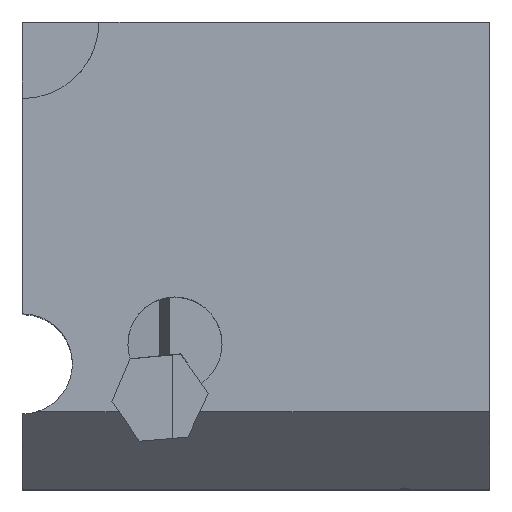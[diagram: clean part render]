
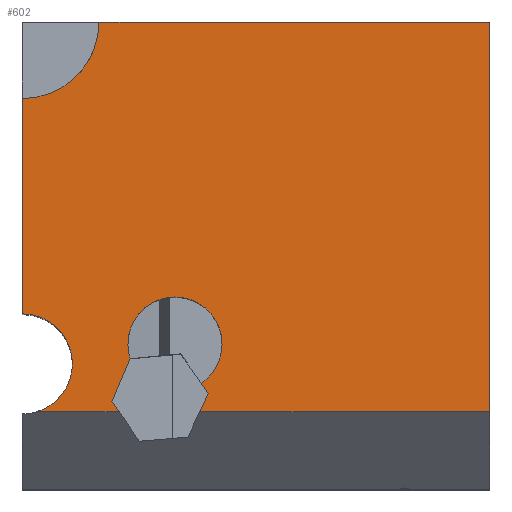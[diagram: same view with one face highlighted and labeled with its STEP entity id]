
A CAD part, top view. The second image highlights one B-rep face of the part: STEP entity #602.
In plain terms, the highlighted planar face has unit normal (0, 0, 1).
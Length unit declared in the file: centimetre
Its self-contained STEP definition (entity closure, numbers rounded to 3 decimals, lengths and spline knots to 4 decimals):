
#21 = CIRCLE ( 'NONE', #1441, 100.7163 ) ;
#42 = EDGE_CURVE ( 'NONE', #1567, #82, #1846, .T. ) ;
#57 = DIRECTION ( 'NONE',  ( 0.426, 0.905, 0. ) ) ;
#82 = VERTEX_POINT ( 'NONE', #704 ) ;
#111 = EDGE_CURVE ( 'NONE', #246, #1567, #1868, .T. ) ;
#115 = ORIENTED_EDGE ( 'NONE', *, *, #1467, .F. ) ;
#156 = CARTESIAN_POINT ( 'NONE',  ( 1000., 165.7904, 1000. ) ) ;
#165 = DIRECTION ( 'NONE',  ( -0.571, 0.821, 0. ) ) ;
#179 = DIRECTION ( 'NONE',  ( 0., 1., 0. ) ) ;
#184 = AXIS2_PLACEMENT_3D ( 'NONE', #1488, #534, #1877 ) ;
#203 = CARTESIAN_POINT ( 'NONE',  ( 0., 268.3069, 1000. ) ) ;
#229 = LINE ( 'NONE', #1419, #943 ) ;
#246 = VERTEX_POINT ( 'NONE', #156 ) ;
#256 = DIRECTION ( 'NONE',  ( 0., 0., 1. ) ) ;
#263 = DIRECTION ( 'NONE',  ( 0.571, -0.821, 0. ) ) ;
#268 = CIRCLE ( 'NONE', #2372, 100.7163 ) ;
#301 = VECTOR ( 'NONE', #165, 100. ) ;
#347 = ORIENTED_EDGE ( 'NONE', *, *, #352, .F. ) ;
#352 = EDGE_CURVE ( 'NONE', #441, #1256, #2105, .T. ) ;
#383 = EDGE_CURVE ( 'NONE', #882, #1645, #1221, .T. ) ;
#394 = VERTEX_POINT ( 'NONE', #1988 ) ;
#395 = DIRECTION ( 'NONE',  ( 1., 0., 0. ) ) ;
#434 = ORIENTED_EDGE ( 'NONE', *, *, #935, .T. ) ;
#440 = ORIENTED_EDGE ( 'NONE', *, *, #111, .T. ) ;
#441 = VERTEX_POINT ( 'NONE', #831 ) ;
#474 = DIRECTION ( 'NONE',  ( 1., 0., 0. ) ) ;
#479 = VERTEX_POINT ( 'NONE', #1563 ) ;
#480 = CARTESIAN_POINT ( 'NONE',  ( 230.5942, 280.0854, 1000. ) ) ;
#481 = CARTESIAN_POINT ( 'NONE',  ( 0., 1000., 1000. ) ) ;
#509 = VECTOR ( 'NONE', #2130, 100. ) ;
#534 = DIRECTION ( 'NONE',  ( 0., 0., 1. ) ) ;
#545 = CARTESIAN_POINT ( 'NONE',  ( 230.5942, 280.0854, 1000. ) ) ;
#571 = CARTESIAN_POINT ( 'NONE',  ( 225.8338, 310.6833, 1000. ) ) ;
#602 = ADVANCED_FACE ( 'NONE', ( #2083 ), #1682, .T. ) ;
#661 = VECTOR ( 'NONE', #794, 100. ) ;
#685 = VECTOR ( 'NONE', #1440, 100. ) ;
#704 = CARTESIAN_POINT ( 'NONE',  ( 163.8753, 1000., 1000. ) ) ;
#776 = DIRECTION ( 'NONE',  ( 0., 0., 1. ) ) ;
#794 = DIRECTION ( 'NONE',  ( 1., 0., 0. ) ) ;
#804 = AXIS2_PLACEMENT_3D ( 'NONE', #2239, #2469, #1108 ) ;
#831 = CARTESIAN_POINT ( 'NONE',  ( 30.5582, 165.7904, 1000. ) ) ;
#854 = CARTESIAN_POINT ( 'NONE',  ( 191.5219, 187.9049, 1000. ) ) ;
#882 = VERTEX_POINT ( 'NONE', #1186 ) ;
#935 = EDGE_CURVE ( 'NONE', #882, #246, #229, .T. ) ;
#943 = VECTOR ( 'NONE', #1582, 100. ) ;
#954 = EDGE_CURVE ( 'NONE', #1817, #2198, #268, .T. ) ;
#957 = LINE ( 'NONE', #2518, #509 ) ;
#962 = CARTESIAN_POINT ( 'NONE',  ( 326.5502, 310.6833, 1000. ) ) ;
#1037 = EDGE_CURVE ( 'NONE', #1057, #394, #957, .T. ) ;
#1044 = CARTESIAN_POINT ( 'NONE',  ( 427.2665, 310.6833, 1000. ) ) ;
#1056 = CARTESIAN_POINT ( 'NONE',  ( 1000., 1000., 1000. ) ) ;
#1057 = VERTEX_POINT ( 'NONE', #2285 ) ;
#1059 = ORIENTED_EDGE ( 'NONE', *, *, #1305, .F. ) ;
#1084 = ORIENTED_EDGE ( 'NONE', *, *, #2219, .F. ) ;
#1088 = LINE ( 'NONE', #1519, #301 ) ;
#1108 = DIRECTION ( 'NONE',  ( 1., 0., 0. ) ) ;
#1186 = CARTESIAN_POINT ( 'NONE',  ( 379.5381, 165.7904, 1000. ) ) ;
#1200 = ORIENTED_EDGE ( 'NONE', *, *, #1793, .F. ) ;
#1221 = LINE ( 'NONE', #1973, #1816 ) ;
#1234 = CIRCLE ( 'NONE', #184, 100.7163 ) ;
#1243 = LINE ( 'NONE', #854, #2255 ) ;
#1256 = VERTEX_POINT ( 'NONE', #1665 ) ;
#1260 = ORIENTED_EDGE ( 'NONE', *, *, #1638, .F. ) ;
#1305 = EDGE_CURVE ( 'NONE', #1057, #82, #1396, .T. ) ;
#1315 = CARTESIAN_POINT ( 'NONE',  ( 1000., 1000., 1000. ) ) ;
#1341 = CARTESIAN_POINT ( 'NONE',  ( 0., 1000., 1000. ) ) ;
#1349 = CIRCLE ( 'NONE', #1480, 106.974 ) ;
#1396 = CIRCLE ( 'NONE', #2088, 163.8753 ) ;
#1413 = LINE ( 'NONE', #480, #1597 ) ;
#1419 = CARTESIAN_POINT ( 'NONE',  ( 1000., 165.7904, 1000. ) ) ;
#1438 = CARTESIAN_POINT ( 'NONE',  ( 206.8932, 165.7904, 1000. ) ) ;
#1440 = DIRECTION ( 'NONE',  ( -1., 0., 0. ) ) ;
#1441 = AXIS2_PLACEMENT_3D ( 'NONE', #962, #2496, #2134 ) ;
#1467 = EDGE_CURVE ( 'NONE', #2198, #479, #1413, .T. ) ;
#1480 = AXIS2_PLACEMENT_3D ( 'NONE', #203, #2338, #2166 ) ;
#1488 = CARTESIAN_POINT ( 'NONE',  ( 326.5502, 310.6833, 1000. ) ) ;
#1497 = EDGE_CURVE ( 'NONE', #479, #1546, #1243, .T. ) ;
#1519 = CARTESIAN_POINT ( 'NONE',  ( 398.1095, 205.2603, 1000. ) ) ;
#1546 = VERTEX_POINT ( 'NONE', #1438 ) ;
#1550 = VERTEX_POINT ( 'NONE', #1044 ) ;
#1563 = CARTESIAN_POINT ( 'NONE',  ( 191.5219, 187.9049, 1000. ) ) ;
#1567 = VERTEX_POINT ( 'NONE', #1056 ) ;
#1582 = DIRECTION ( 'NONE',  ( 1., 0., 0. ) ) ;
#1597 = VECTOR ( 'NONE', #2407, 100. ) ;
#1631 = CARTESIAN_POINT ( 'NONE',  ( 326.5502, 310.6833, 1000. ) ) ;
#1638 = EDGE_CURVE ( 'NONE', #2079, #1550, #1234, .T. ) ;
#1645 = VERTEX_POINT ( 'NONE', #1695 ) ;
#1665 = CARTESIAN_POINT ( 'NONE',  ( 106.974, 268.3069, 1000. ) ) ;
#1682 = PLANE ( 'NONE',  #804 ) ;
#1695 = CARTESIAN_POINT ( 'NONE',  ( 398.1095, 205.2603, 1000. ) ) ;
#1712 = ORIENTED_EDGE ( 'NONE', *, *, #1037, .T. ) ;
#1738 = CARTESIAN_POINT ( 'NONE',  ( 1000., 165.7904, 1000. ) ) ;
#1745 = ORIENTED_EDGE ( 'NONE', *, *, #1497, .F. ) ;
#1765 = ORIENTED_EDGE ( 'NONE', *, *, #954, .F. ) ;
#1780 = EDGE_CURVE ( 'NONE', #1550, #1817, #21, .T. ) ;
#1781 = CARTESIAN_POINT ( 'NONE',  ( 0., 268.3069, 1000. ) ) ;
#1792 = DIRECTION ( 'NONE',  ( 1., 0., 0. ) ) ;
#1793 = EDGE_CURVE ( 'NONE', #1256, #394, #1349, .T. ) ;
#1816 = VECTOR ( 'NONE', #57, 100. ) ;
#1817 = VERTEX_POINT ( 'NONE', #571 ) ;
#1846 = LINE ( 'NONE', #481, #685 ) ;
#1868 = LINE ( 'NONE', #1315, #1977 ) ;
#1877 = DIRECTION ( 'NONE',  ( 1., 0., 0. ) ) ;
#1954 = DIRECTION ( 'NONE',  ( 0., 0., 1. ) ) ;
#1971 = ORIENTED_EDGE ( 'NONE', *, *, #383, .F. ) ;
#1973 = CARTESIAN_POINT ( 'NONE',  ( 353.9777, 111.4664, 1000. ) ) ;
#1974 = ORIENTED_EDGE ( 'NONE', *, *, #42, .T. ) ;
#1977 = VECTOR ( 'NONE', #179, 100. ) ;
#1988 = CARTESIAN_POINT ( 'NONE',  ( 0., 375.2809, 1000. ) ) ;
#2079 = VERTEX_POINT ( 'NONE', #2434 ) ;
#2083 = FACE_OUTER_BOUND ( 'NONE', #2249, .T. ) ;
#2088 = AXIS2_PLACEMENT_3D ( 'NONE', #1341, #1954, #395 ) ;
#2105 = CIRCLE ( 'NONE', #2348, 106.974 ) ;
#2130 = DIRECTION ( 'NONE',  ( 0., -1., 0. ) ) ;
#2134 = DIRECTION ( 'NONE',  ( 1., 0., 0. ) ) ;
#2146 = LINE ( 'NONE', #1738, #661 ) ;
#2166 = DIRECTION ( 'NONE',  ( 1., 0., 0. ) ) ;
#2177 = ORIENTED_EDGE ( 'NONE', *, *, #2519, .T. ) ;
#2198 = VERTEX_POINT ( 'NONE', #545 ) ;
#2199 = ORIENTED_EDGE ( 'NONE', *, *, #1780, .F. ) ;
#2219 = EDGE_CURVE ( 'NONE', #1645, #2079, #1088, .T. ) ;
#2239 = CARTESIAN_POINT ( 'NONE',  ( 0., 0., 1000. ) ) ;
#2249 = EDGE_LOOP ( 'NONE', ( #347, #2177, #1745, #115, #1765, #2199, #1260, #1084, #1971, #434, #440, #1974, #1059, #1712, #1200 ) ) ;
#2255 = VECTOR ( 'NONE', #263, 100. ) ;
#2285 = CARTESIAN_POINT ( 'NONE',  ( 0., 836.1247, 1000. ) ) ;
#2338 = DIRECTION ( 'NONE',  ( 0., 0., 1. ) ) ;
#2348 = AXIS2_PLACEMENT_3D ( 'NONE', #1781, #776, #1792 ) ;
#2372 = AXIS2_PLACEMENT_3D ( 'NONE', #1631, #256, #474 ) ;
#2407 = DIRECTION ( 'NONE',  ( -0.39, -0.921, 0. ) ) ;
#2434 = CARTESIAN_POINT ( 'NONE',  ( 382.8698, 227.1855, 1000. ) ) ;
#2469 = DIRECTION ( 'NONE',  ( 0., 0., 1. ) ) ;
#2496 = DIRECTION ( 'NONE',  ( 0., 0., 1. ) ) ;
#2518 = CARTESIAN_POINT ( 'NONE',  ( 0., 1000., 1000. ) ) ;
#2519 = EDGE_CURVE ( 'NONE', #441, #1546, #2146, .T. ) ;
